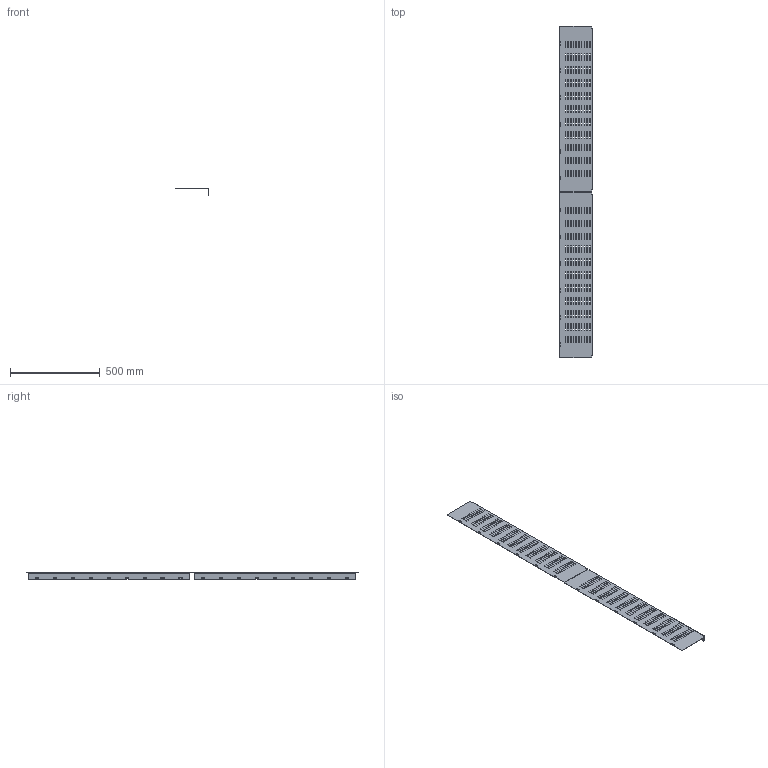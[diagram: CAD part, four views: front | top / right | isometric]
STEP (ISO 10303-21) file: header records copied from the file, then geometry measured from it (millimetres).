
FILE_DESCRIPTION(('CAx-IF Rec.Pracs.---Model Styling and Organization---1.2---2011-12-15','CAx-IF Rec.Pracs.---Geometric and Assembly Validation Properties---4.1---2014-06-16','CAx-IF Rec.Pracs.---PMI Polyline Presentation---2.0---2013-05-24'),'2;1');
FILE_NAME('R5SBCS2260.stp','2021-05-05T13:45:16+03:00',(''),(''),'STEP Interface 4.4 by CT CoreTechnologie','3D_Evolution4.4 by CT CoreTechnologie','');
FILE_SCHEMA(('AUTOMOTIVE_DESIGN { 1 0 10303 214 1 1 1 1 }'));
Length unit declared in the file: millimetre
Products named in the file (2): R5SBCS2260; RB.0495.00.00.0_-04
Assembly tree (2 placements, depth 2):
  R5SBCS2260
    RB.0495.00.00.0_-04  x2
Bounding box: 187.1 x 1848 x 36.5 mm (x, y, z)
Surface area: 789801.1 mm2 (no closed solid volume)
Topology: 0 solids, 2 shells, 1044 faces, 3112 edges, 2072 vertices
Faces by surface type: plane 920, cylinder 124
Entity records: 17925 total; most frequent: CARTESIAN_POINT 3117, ORIENTED_EDGE 3112, DIRECTION 2730, EDGE_CURVE 1556, VECTOR 1432, LINE 1432, VERTEX_POINT 1036, EDGE_LOOP 802
